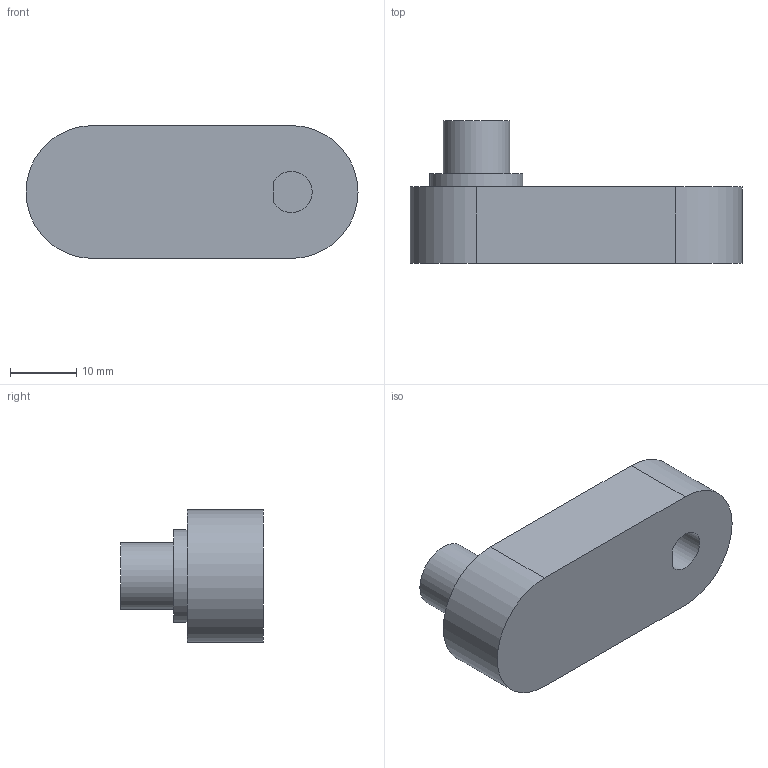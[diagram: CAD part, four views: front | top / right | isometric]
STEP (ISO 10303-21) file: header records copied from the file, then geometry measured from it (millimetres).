
FILE_DESCRIPTION(/* description */ (''),/* implementation_level */ '2;1');
FILE_NAME(/* name */ 'C:\Users\Jaime\Desktop\Universidad\MÁSTER ING. INDUSTRIAL\TFM\CD\PiezaA.3.stp',/* time_stamp */ '2018-02-15T23:57:19+01:00',/* author */ ('Jaime'),/* organization */ (''),/* preprocessor_version */ 'ST-DEVELOPER v16.5',/* originating_system */ 'Autodesk Inventor 2017',/* authorisation */ '');
FILE_SCHEMA (('AUTOMOTIVE_DESIGN { 1 0 10303 214 3 1 1 }'));
Length unit declared in the file: millimetre
Products named in the file (1): PiezaA.3
Bounding box: 50 x 21.5 x 20 mm (x, y, z)
Volume: 11199.4 mm3; surface area: 3744.6 mm2
Topology: 1 solids, 1 shells, 13 faces, 24 edges, 16 vertices
Faces by surface type: plane 8, cylinder 5
Full cylindrical faces by diameter (mm): 10 x1, 14 x1
Entity records: 342 total; most frequent: DIRECTION 60, CARTESIAN_POINT 52, ORIENTED_EDGE 44, AXIS2_PLACEMENT_3D 24, EDGE_CURVE 22, EDGE_LOOP 18, VERTEX_POINT 16, FACE_OUTER_BOUND 13
